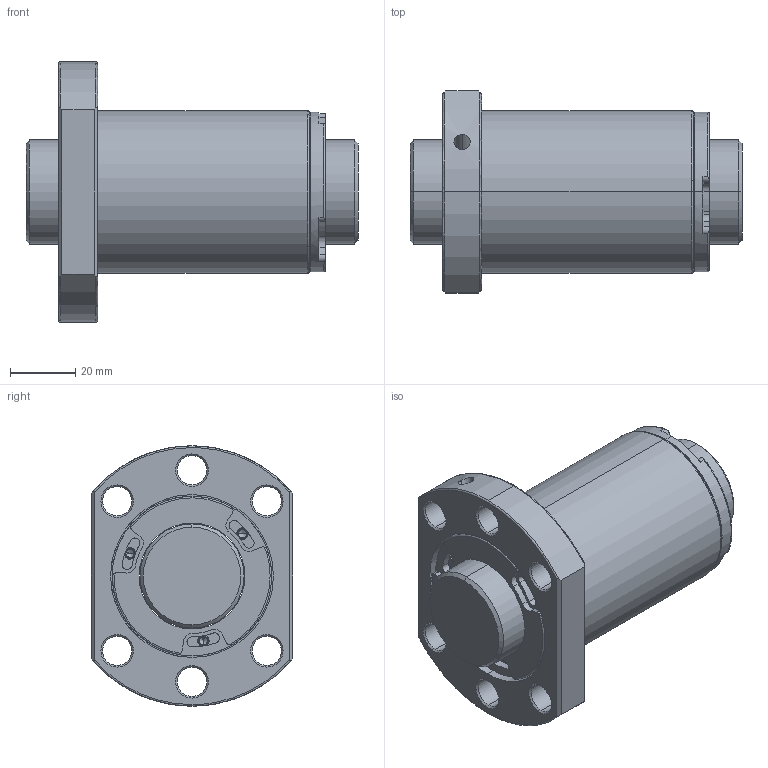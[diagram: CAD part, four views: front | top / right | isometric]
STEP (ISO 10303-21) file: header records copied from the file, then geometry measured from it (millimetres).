
FILE_DESCRIPTION (( 'STEP AP203' ), '1' );
FILE_NAME ('SFSR03232A1D-C.STEP', '2020-06-17T01:49:10', ( '' ), ( '' ), 'SwSTEP 2.0', 'SolidWorks 2013', '' );
FILE_SCHEMA (( 'CONFIG_CONTROL_DESIGN' ));
Length unit declared in the file: millimetre
Products named in the file (1): SFSR03232A1D-C
Bounding box: 102 x 62 x 80 mm (x, y, z)
Volume: 193525 mm3; surface area: 45260.3 mm2
Topology: 2 solids, 2 shells, 262 faces, 665 edges, 411 vertices
Faces by surface type: cylinder 128, plane 66, cone 52, bspline 16
Entity records: 8813 total; most frequent: CARTESIAN_POINT 2309, DIRECTION 1460, ORIENTED_EDGE 1306, EDGE_CURVE 653, AXIS2_PLACEMENT_3D 612, VERTEX_POINT 411, CIRCLE 365, EDGE_LOOP 296
